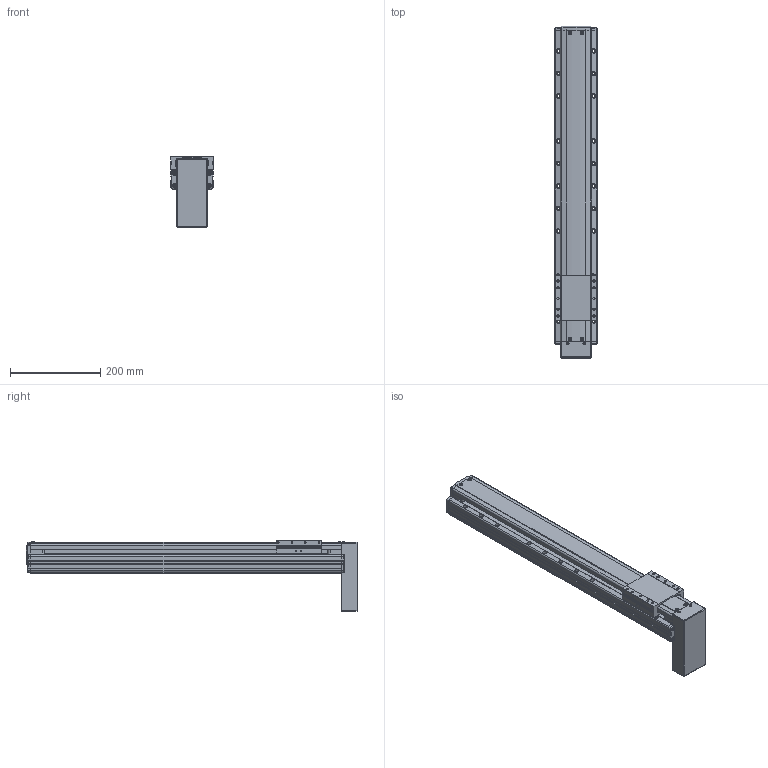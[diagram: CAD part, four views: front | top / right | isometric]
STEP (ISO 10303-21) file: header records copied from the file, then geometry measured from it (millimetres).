
FILE_DESCRIPTION(('STEP AP214'),'1');
FILE_NAME('Z:/Web/3D/PSA95/STP/PSA95-500 (3D)/PSA95ㅁㅁ-500PB.stp','2014-07-03T00:31:26',(' '),(' '),'Spatial InterOp 3D',' ',' ');
FILE_SCHEMA(('automotive_design'));
Length unit declared in the file: millimetre
Products named in the file (29): BASE; RRCV; 스크루 : Round - M4.0 x 10.0; 너트 : Square - M10.0 x 220.7419; RR1500; FRCV-090; 스크루 : Round - M4.0 x 6.0; SLBL-PA90; MTPL COVER; 스크루 : Round - M3.0 x 6.0; 1; 2
Bounding box: 95.1 x 737.5 x 159.57 mm (x, y, z)
Volume: 4172817.7 mm3; surface area: 438528.6 mm2
Topology: 29 solids, 29 shells, 2057 faces, 5485 edges, 3491 vertices
Faces by surface type: plane 1134, cylinder 621, cone 214, sphere 50, bspline 24, torus 14
Entity records: 82624 total; most frequent: CARTESIAN_POINT 14085, DIRECTION 10880, ORIENTED_EDGE 10698, EDGE_CURVE 5349, AXIS2_PLACEMENT_3D 3640, LINE 3600, VECTOR 3600, VERTEX_POINT 3491
